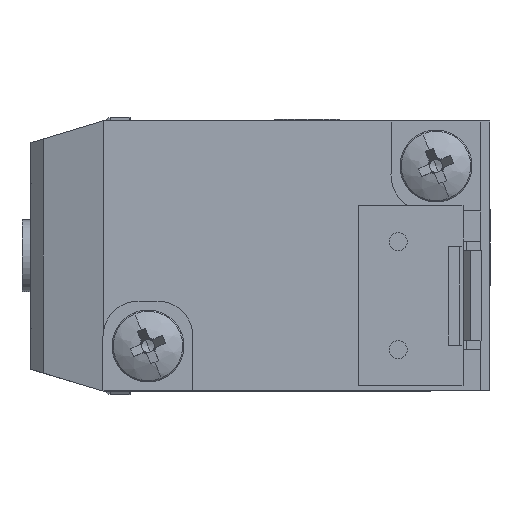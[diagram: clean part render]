
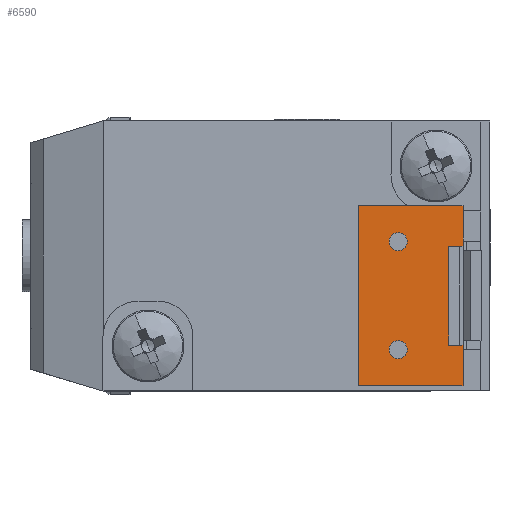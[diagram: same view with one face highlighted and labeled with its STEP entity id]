
A CAD part, left-side view. The second image highlights one B-rep face of the part: STEP entity #6590.
In plain terms, the highlighted planar face has unit normal (-1, 0, 0) as drawn and (0, 0, 1) by its records, which use the part's own axes.
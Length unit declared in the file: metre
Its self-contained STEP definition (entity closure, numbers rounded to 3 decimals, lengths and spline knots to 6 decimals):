
#144 = ORIENTED_EDGE ( 'NONE', *, *, #5505, .F. ) ;
#223 = CARTESIAN_POINT ( 'NONE',  ( -0.005, 0.004475, 0.006 ) ) ;
#355 = VERTEX_POINT ( 'NONE', #3561 ) ;
#375 = DIRECTION ( 'NONE',  ( -1., 0., 0. ) ) ;
#498 = CARTESIAN_POINT ( 'NONE',  ( 0.005, 0.004475, 0.006 ) ) ;
#518 = ORIENTED_EDGE ( 'NONE', *, *, #11109, .F. ) ;
#528 = EDGE_LOOP ( 'NONE', ( #7708, #1852 ) ) ;
#660 = VECTOR ( 'NONE', #9391, 1. ) ;
#688 = EDGE_CURVE ( 'NONE', #837, #3167, #10244, .T. ) ;
#837 = VERTEX_POINT ( 'NONE', #10979 ) ;
#856 = DIRECTION ( 'NONE',  ( -1., 0., 0. ) ) ;
#876 = ORIENTED_EDGE ( 'NONE', *, *, #4063, .T. ) ;
#877 = CARTESIAN_POINT ( 'NONE',  ( 0., 0.010275, 0.006 ) ) ;
#891 = DIRECTION ( 'NONE',  ( 1., 0., 0. ) ) ;
#1160 = FACE_OUTER_BOUND ( 'NONE', #5286, .T. ) ;
#1225 = CARTESIAN_POINT ( 'NONE',  ( 0.005, 0.010275, 0.006 ) ) ;
#1348 = VERTEX_POINT ( 'NONE', #223 ) ;
#1379 = VERTEX_POINT ( 'NONE', #498 ) ;
#1383 = LINE ( 'NONE', #10950, #5755 ) ;
#1498 = DIRECTION ( 'NONE',  ( 0., 0., 1. ) ) ;
#1613 = CIRCLE ( 'NONE', #2613, 0.0005 ) ;
#1742 = DIRECTION ( 'NONE',  ( 0., 0., -1. ) ) ;
#1748 = LINE ( 'NONE', #877, #8797 ) ;
#1774 = VERTEX_POINT ( 'NONE', #5133 ) ;
#1777 = EDGE_CURVE ( 'NONE', #3167, #837, #1613, .T. ) ;
#1852 = ORIENTED_EDGE ( 'NONE', *, *, #10777, .F. ) ;
#1963 = CARTESIAN_POINT ( 'NONE',  ( 0.005, 0.007375, 0.006 ) ) ;
#1976 = DIRECTION ( 'NONE',  ( 0., -1., 0. ) ) ;
#2102 = DIRECTION ( 'NONE',  ( 0., -1., 0. ) ) ;
#2323 = CARTESIAN_POINT ( 'NONE',  ( -0.003, 0.007575, 0.006 ) ) ;
#2613 = AXIS2_PLACEMENT_3D ( 'NONE', #5236, #5247, #5259 ) ;
#2847 = EDGE_CURVE ( 'NONE', #3252, #7271, #1748, .T. ) ;
#3036 = VERTEX_POINT ( 'NONE', #3629 ) ;
#3102 = ORIENTED_EDGE ( 'NONE', *, *, #1777, .F. ) ;
#3167 = VERTEX_POINT ( 'NONE', #5518 ) ;
#3252 = VERTEX_POINT ( 'NONE', #6084 ) ;
#3427 = DIRECTION ( 'NONE',  ( -1., 0., 0. ) ) ;
#3561 = CARTESIAN_POINT ( 'NONE',  ( -0.00275, 0.005275, 0.006 ) ) ;
#3629 = CARTESIAN_POINT ( 'NONE',  ( -0.00275, 0.004475, 0.006 ) ) ;
#3759 = VECTOR ( 'NONE', #1976, 1. ) ;
#3773 = VECTOR ( 'NONE', #4953, 1. ) ;
#4055 = LINE ( 'NONE', #11216, #3773 ) ;
#4063 = EDGE_CURVE ( 'NONE', #3036, #355, #10053, .T. ) ;
#4342 = VERTEX_POINT ( 'NONE', #2323 ) ;
#4389 = PLANE ( 'NONE',  #10998 ) ;
#4591 = CARTESIAN_POINT ( 'NONE',  ( -0.003, 0.008075, 0.006 ) ) ;
#4953 = DIRECTION ( 'NONE',  ( 0., 1., 0. ) ) ;
#5133 = CARTESIAN_POINT ( 'NONE',  ( -0.003, 0.008575, 0.006 ) ) ;
#5236 = CARTESIAN_POINT ( 'NONE',  ( 0.003, 0.008075, 0.006 ) ) ;
#5247 = DIRECTION ( 'NONE',  ( 0., 0., 1. ) ) ;
#5259 = DIRECTION ( 'NONE',  ( 0., -1., 0. ) ) ;
#5286 = EDGE_LOOP ( 'NONE', ( #876, #9564, #11188, #10288, #144, #8794, #518, #7952 ) ) ;
#5466 = DIRECTION ( 'NONE',  ( 0., -1., 0. ) ) ;
#5505 = EDGE_CURVE ( 'NONE', #7271, #1379, #10580, .T. ) ;
#5518 = CARTESIAN_POINT ( 'NONE',  ( 0.003, 0.007575, 0.006 ) ) ;
#5526 = FACE_BOUND ( 'NONE', #528, .T. ) ;
#5755 = VECTOR ( 'NONE', #2102, 1. ) ;
#6028 = LINE ( 'NONE', #6470, #10795 ) ;
#6072 = LINE ( 'NONE', #9639, #8435 ) ;
#6084 = CARTESIAN_POINT ( 'NONE',  ( -0.005, 0.010275, 0.006 ) ) ;
#6397 = EDGE_CURVE ( 'NONE', #1379, #9014, #9850, .T. ) ;
#6443 = AXIS2_PLACEMENT_3D ( 'NONE', #4591, #10827, #5466 ) ;
#6470 = CARTESIAN_POINT ( 'NONE',  ( 0., 0.004475, 0.006 ) ) ;
#6550 = EDGE_CURVE ( 'NONE', #8839, #355, #6072, .T. ) ;
#6590 = ADVANCED_FACE ( 'NONE', ( #10278, #5526, #1160 ), #4389, .F. ) ;
#6738 = CARTESIAN_POINT ( 'NONE',  ( -0.003, 0.008075, 0.006 ) ) ;
#6952 = CIRCLE ( 'NONE', #9958, 0.0005 ) ;
#7271 = VERTEX_POINT ( 'NONE', #1225 ) ;
#7441 = VECTOR ( 'NONE', #856, 1. ) ;
#7561 = ORIENTED_EDGE ( 'NONE', *, *, #688, .F. ) ;
#7617 = DIRECTION ( 'NONE',  ( 0., -1., 0. ) ) ;
#7708 = ORIENTED_EDGE ( 'NONE', *, *, #9348, .F. ) ;
#7832 = AXIS2_PLACEMENT_3D ( 'NONE', #9468, #9479, #9506 ) ;
#7952 = ORIENTED_EDGE ( 'NONE', *, *, #8026, .F. ) ;
#8026 = EDGE_CURVE ( 'NONE', #3036, #1348, #6028, .T. ) ;
#8046 = EDGE_CURVE ( 'NONE', #8839, #9014, #1383, .T. ) ;
#8435 = VECTOR ( 'NONE', #3427, 1. ) ;
#8669 = CARTESIAN_POINT ( 'NONE',  ( 0.00275, 0.005275, 0.006 ) ) ;
#8794 = ORIENTED_EDGE ( 'NONE', *, *, #2847, .F. ) ;
#8797 = VECTOR ( 'NONE', #891, 1. ) ;
#8811 = CARTESIAN_POINT ( 'NONE',  ( 0.005, 0.004475, 0.006 ) ) ;
#8839 = VERTEX_POINT ( 'NONE', #8669 ) ;
#8938 = CARTESIAN_POINT ( 'NONE',  ( 0.00275, 0.004475, 0.006 ) ) ;
#9014 = VERTEX_POINT ( 'NONE', #8938 ) ;
#9348 = EDGE_CURVE ( 'NONE', #4342, #1774, #6952, .T. ) ;
#9358 = CARTESIAN_POINT ( 'NONE',  ( -0.00275, 0.004875, 0.006 ) ) ;
#9391 = DIRECTION ( 'NONE',  ( 0., 1., 0. ) ) ;
#9466 = CIRCLE ( 'NONE', #6443, 0.0005 ) ;
#9468 = CARTESIAN_POINT ( 'NONE',  ( 0.003, 0.008075, 0.006 ) ) ;
#9479 = DIRECTION ( 'NONE',  ( 0., 0., 1. ) ) ;
#9506 = DIRECTION ( 'NONE',  ( 0., -1., 0. ) ) ;
#9564 = ORIENTED_EDGE ( 'NONE', *, *, #6550, .F. ) ;
#9639 = CARTESIAN_POINT ( 'NONE',  ( 0., 0.005275, 0.006 ) ) ;
#9850 = LINE ( 'NONE', #10575, #7441 ) ;
#9958 = AXIS2_PLACEMENT_3D ( 'NONE', #6738, #1498, #7617 ) ;
#10053 = LINE ( 'NONE', #9358, #660 ) ;
#10244 = CIRCLE ( 'NONE', #7832, 0.0005 ) ;
#10278 = FACE_BOUND ( 'NONE', #10614, .T. ) ;
#10288 = ORIENTED_EDGE ( 'NONE', *, *, #6397, .F. ) ;
#10575 = CARTESIAN_POINT ( 'NONE',  ( 0., 0.004475, 0.006 ) ) ;
#10580 = LINE ( 'NONE', #1963, #3759 ) ;
#10614 = EDGE_LOOP ( 'NONE', ( #3102, #7561 ) ) ;
#10631 = DIRECTION ( 'NONE',  ( -1., 0., 0. ) ) ;
#10777 = EDGE_CURVE ( 'NONE', #1774, #4342, #9466, .T. ) ;
#10795 = VECTOR ( 'NONE', #375, 1. ) ;
#10827 = DIRECTION ( 'NONE',  ( 0., 0., 1. ) ) ;
#10950 = CARTESIAN_POINT ( 'NONE',  ( 0.00275, 0.004875, 0.006 ) ) ;
#10979 = CARTESIAN_POINT ( 'NONE',  ( 0.003, 0.008575, 0.006 ) ) ;
#10998 = AXIS2_PLACEMENT_3D ( 'NONE', #8811, #1742, #10631 ) ;
#11109 = EDGE_CURVE ( 'NONE', #1348, #3252, #4055, .T. ) ;
#11188 = ORIENTED_EDGE ( 'NONE', *, *, #8046, .T. ) ;
#11216 = CARTESIAN_POINT ( 'NONE',  ( -0.005, 0.007375, 0.006 ) ) ;
